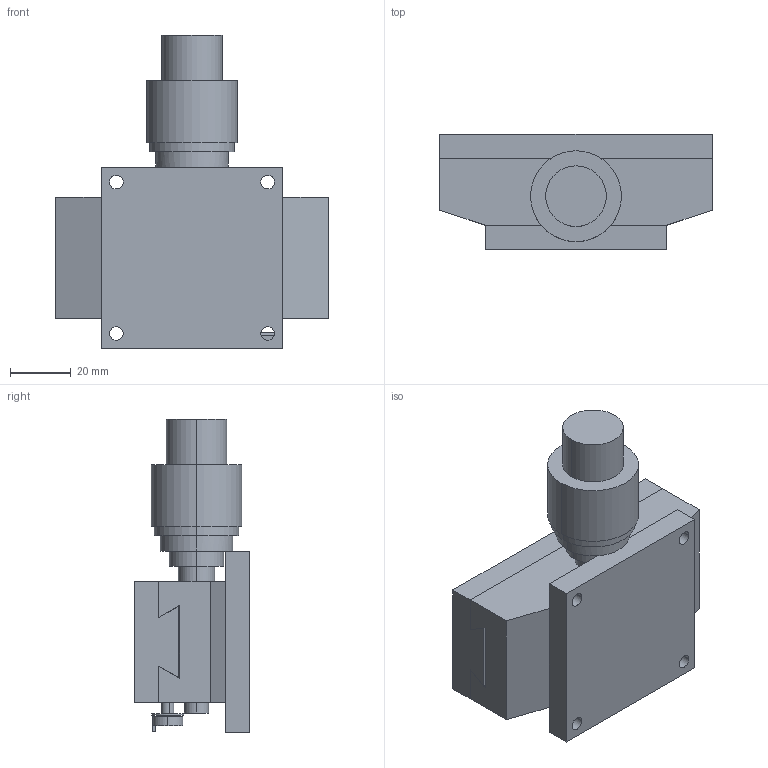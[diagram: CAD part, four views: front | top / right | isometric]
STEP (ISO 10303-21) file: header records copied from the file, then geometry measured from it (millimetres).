
FILE_DESCRIPTION (( 'STEP AP203' ), '1' );
FILE_NAME ('LS-912S.STEP', '2008-03-03T08:21:58', ( '' ), ( '' ), 'SwSTEP 2.0', 'SolidWorks 2007', '' );
FILE_SCHEMA (( 'CONFIG_CONTROL_DESIGN' ));
Length unit declared in the file: millimetre
Products named in the file (3): LS-912S-1; LS-912S; LS-912S-2
Assembly tree (2 placements, depth 2):
  LS-912S
    LS-912S-1
    LS-912S-2
Bounding box: 90 x 38 x 103.5 mm (x, y, z)
Volume: 156207.7 mm3; surface area: 37582.4 mm2
Topology: 2 solids, 2 shells, 125 faces, 306 edges, 201 vertices
Faces by surface type: plane 64, cylinder 61
Entity records: 4074 total; most frequent: DIRECTION 689, CARTESIAN_POINT 643, ORIENTED_EDGE 612, EDGE_CURVE 306, AXIS2_PLACEMENT_3D 255, VERTEX_POINT 201, LINE 179, VECTOR 179
